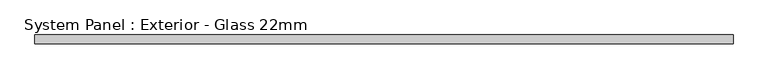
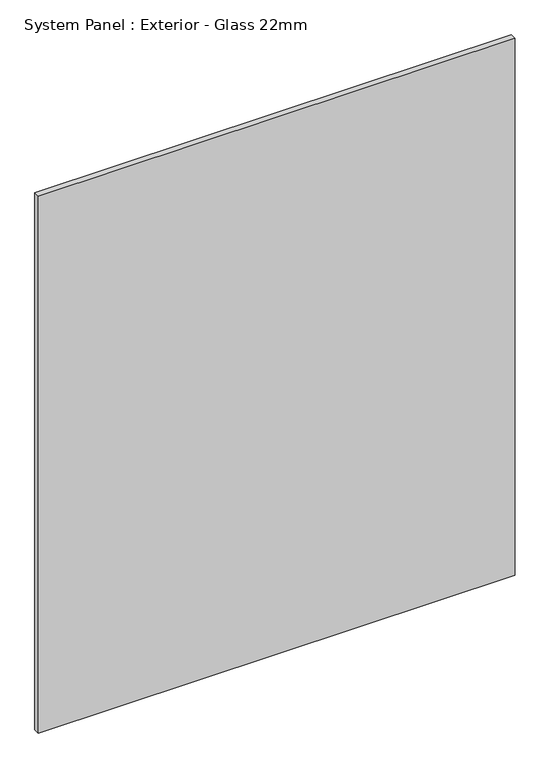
"""IFC4 building model written with IfcOpenShell, lengths in millimetres: plate geometry, System Panel : Exterior - Glass 22mm."""

from ifc_helpers import new_model, si_unit, origin, origin_with_axes, place, context, project, spatial, polyline, outline, extrude, source, transform, mapped, element, save


def system_panel_exterior_glass_22mm_7220da71(model_context):
    return source(origin(), model_context, "Body", "SweptSolid", [
        extrude(outline(polyline([(892.5, -50.0), (-892.5, -50.0), (-892.5, -28.0), (892.5, -28.0), (892.5, -50.0)])), origin_with_axes(), (0.0, 0.0, 1.0), 2125.0),
    ])


if __name__ == "__main__":
    model = new_model("IFC4")
    model_context = context("Model", 3, world=origin())
    ifc_project = project(units=[si_unit("LENGTHUNIT", "METRE", prefix="MILLI")], contexts=[model_context])
    site = spatial("IfcSite", under=ifc_project)
    building = spatial("IfcBuilding", under=site)
    placement = place(None, origin())
    system_panel_exterior_glass_22mm_shape = system_panel_exterior_glass_22mm_7220da71(model_context)
    element("IfcPlate", 1, ObjectType="System Panel : Exterior - Glass 22mm", at=placement, inside=building, context=model_context, shape_type="MappedRepresentation", body=[
        mapped(system_panel_exterior_glass_22mm_shape, transform((0.0, 0.0, 0.0), x_axis=(1.0, 0.0, 0.0), y_axis=(0.0, 1.0, 0.0), z_axis=(0.0, 0.0, 1.0))),
    ])
    save(model, "model.ifc")
